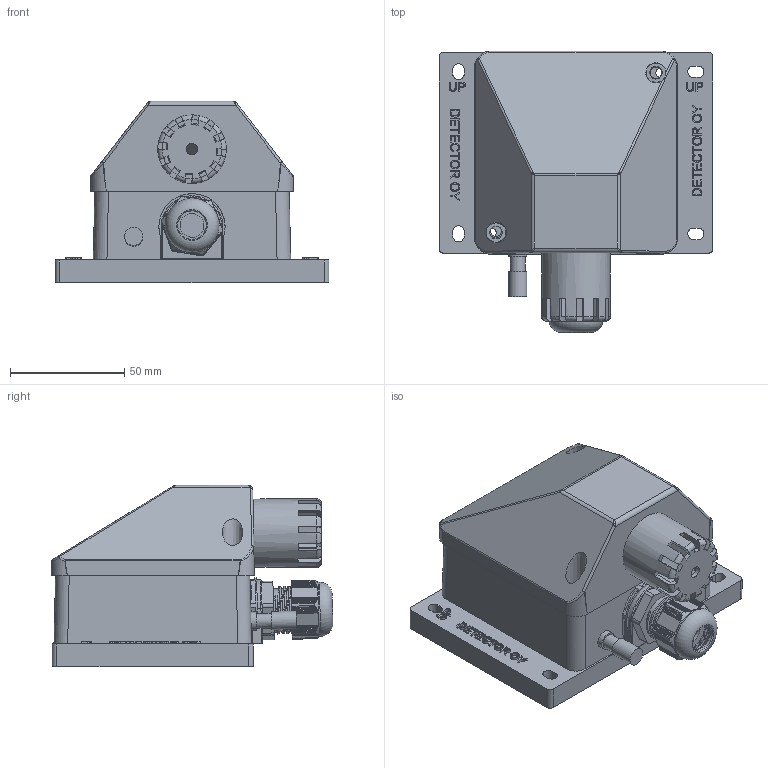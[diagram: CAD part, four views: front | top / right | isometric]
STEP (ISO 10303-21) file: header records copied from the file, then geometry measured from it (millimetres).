
FILE_DESCRIPTION(/* description */ (''),/* implementation_level */ '2;1');
FILE_NAME(/* name */ 'DGTt2-ex.step',/* time_stamp */ '2026-06-29T12:53:28+03:00',/* author */ (''),/* organization */ (''),/* preprocessor_version */ 'ST-DEVELOPER v20.1',/* originating_system */ 'Autodesk Translation Framework v15.8.0.0',/* authorisation */ '');
FILE_SCHEMA (('AUTOMOTIVE_DESIGN { 1 0 10303 214 3 1 1 }'));
Length unit declared in the file: millimetre
Products named in the file (7): 2026-06-22-15-26-52-673; 311 kotelo _ Detector; NONE; 2026-06-22-15-47-44-507; Vinokansi K40; 2026-06-22-16-22-14-972; 2026-06-23-15-47-37-805
Assembly tree (6 placements, depth 2):
  2026-06-22-15-26-52-673
    311 kotelo _ Detector
    NONE
    2026-06-22-15-47-44-507
    Vinokansi K40
    2026-06-22-16-22-14-972
    2026-06-23-15-47-37-805
Bounding box: 120 x 123.39 x 79.5 mm (x, y, z)
Volume: 190884.8 mm3; surface area: 105555.3 mm2
Topology: 6 solids, 6 shells, 1223 faces, 3303 edges, 2135 vertices
Faces by surface type: plane 541, cylinder 328, bspline 276, torus 31, cone 25, sphere 22
Full cylindrical faces by diameter (mm): 2.5 x2, 3 x2, 4 x6, 5 x4, 5.5 x4, 6 x2, 6.4 x1, 8 x2, 9 x3, 10 x2, 12.5 x1, 12.6 x1, 17 x1, 18.95 x2, 19 x4, 20 x1, 20.8 x3, 21.5 x1, 22.5 x1, 23.7 x1, 26 x1, 29 x1, 30 x1, 73 x1
Entity records: 45024 total; most frequent: CARTESIAN_POINT 15820, ORIENTED_EDGE 6562, DIRECTION 5155, EDGE_CURVE 3281, VERTEX_POINT 2135, LINE 1839, VECTOR 1839, AXIS2_PLACEMENT_3D 1658
